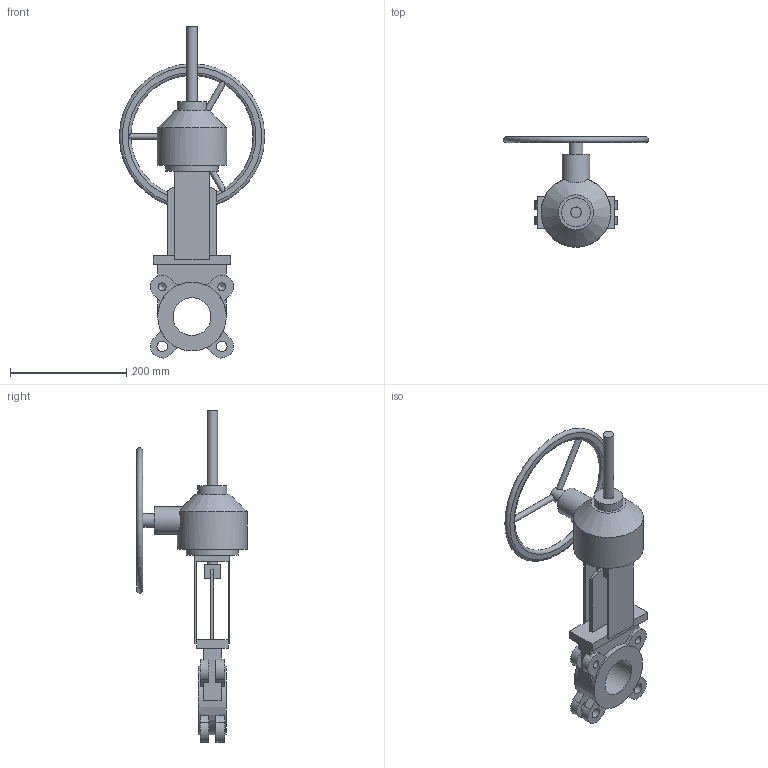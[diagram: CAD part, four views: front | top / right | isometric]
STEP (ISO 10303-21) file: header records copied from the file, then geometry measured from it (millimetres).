
FILE_DESCRIPTION(('STEP AP203'), '1');
FILE_NAME('Çàäâèæêà øèáåðíàÿ K51GV DN65 ðåäóêòîð+âûäâèæíîé øïèíäåëü', '', ('UNSPECIFIED'), ('UNSPECIFIED'), 'ASCON STEP Converter 1.6', 'ASCON Math Kernel', '');
FILE_SCHEMA(('CONFIG_CONTROL_DESIGN'));
Length unit declared in the file: millimetre
Bounding box: 250 x 190 x 571.19 mm (x, y, z)
Volume: 2176439 mm3; surface area: 268838 mm2
Topology: 1 solids, 1 shells, 118 faces, 312 edges, 201 vertices
Faces by surface type: plane 81, cylinder 28, cone 5, torus 4
Full cylindrical faces by diameter (mm): 10 x3, 13.835 x4, 18 x6, 24 x1, 48 x1, 50 x1, 65 x1, 90 x1, 118 x1, 120 x1
Entity records: 5863 total; most frequent: CARTESIAN_POINT 2008, DIRECTION 590, ORIENTED_EDGE 562, EDGE_CURVE 281, AXIS2_PLACEMENT_3D 205, VERTEX_POINT 197, LINE 180, VECTOR 180
